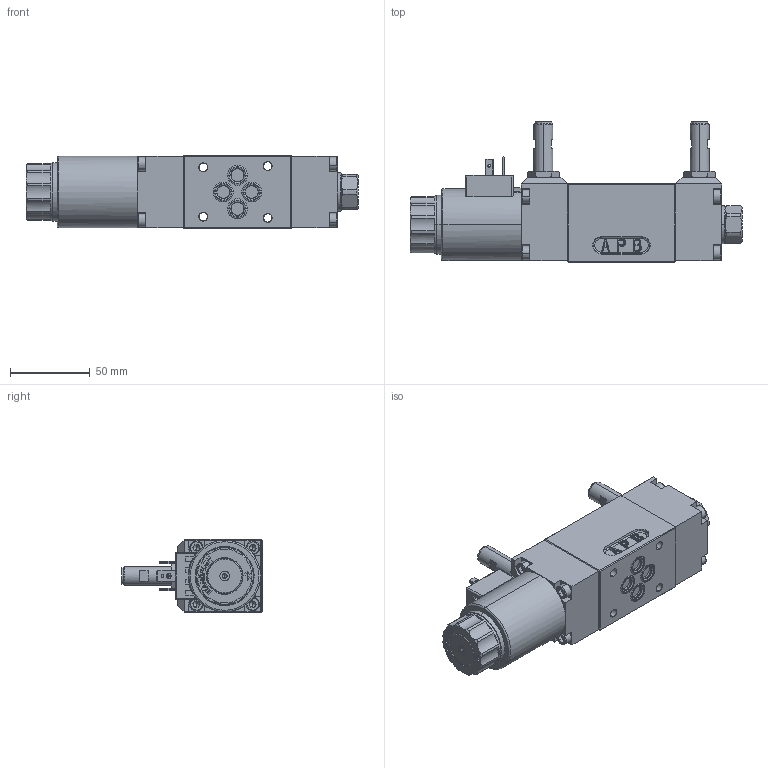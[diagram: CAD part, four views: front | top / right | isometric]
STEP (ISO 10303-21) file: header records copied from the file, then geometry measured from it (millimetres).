
FILE_DESCRIPTION (( 'STEP AP214' ), '1' );
FILE_NAME ('WDMFA06-4_2-Aside-Z72_482,Z72_603,Z72_680.STEP', '2019-08-12T13:58:28', ( '' ), ( '' ), 'SwSTEP 2.0', 'SolidWorks 2018', '' );
FILE_SCHEMA (( 'AUTOMOTIVE_DESIGN' ));
Length unit declared in the file: millimetre
Products named in the file (1): WDMFA06-4_2-Aside-Z72_482,Z72_603,Z72_680
Bounding box: 208.3 x 88 x 46 mm (x, y, z)
Volume: 395774.3 mm3; surface area: 60066.6 mm2
Topology: 8 solids, 18 shells, 1942 faces, 5168 edges, 3314 vertices
Faces by surface type: plane 925, cylinder 695, cone 150, bspline 88, torus 62, sphere 22
Entity records: 85309 total; most frequent: CARTESIAN_POINT 15627, ORIENTED_EDGE 10254, DIRECTION 10064, EDGE_CURVE 5127, AXIS2_PLACEMENT_3D 3638, VERTEX_POINT 3314, LINE 2788, VECTOR 2788
